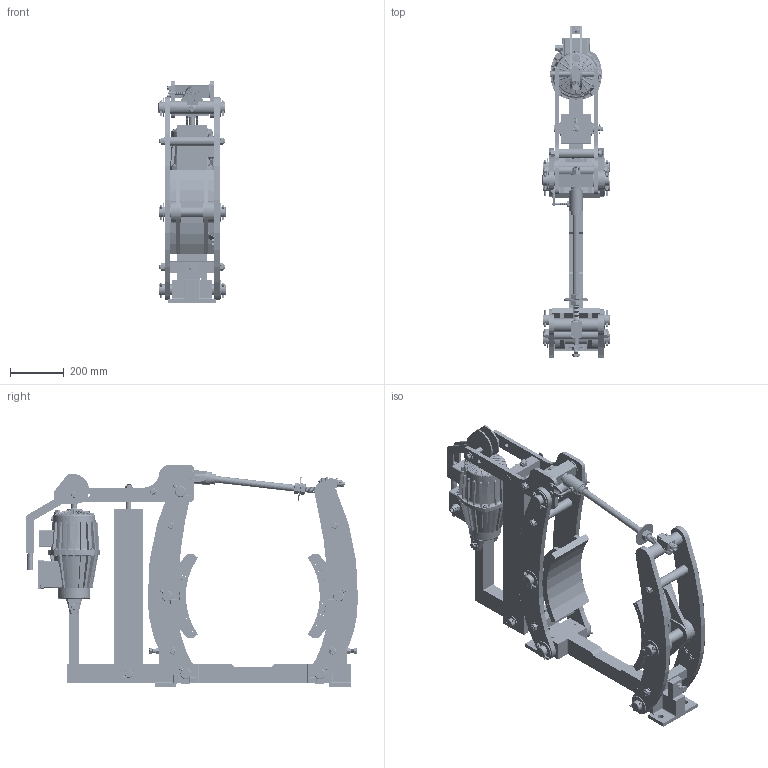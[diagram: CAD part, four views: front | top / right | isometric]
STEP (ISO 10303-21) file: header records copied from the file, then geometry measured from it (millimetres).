
FILE_DESCRIPTION((''),'2;1');
FILE_NAME('4459_504_551_E00002','2018-01-30T',('VORO'),(''),'CREO PARAMETRIC BY PTC INC, 2017170','CREO PARAMETRIC BY PTC INC, 2017170','');
FILE_SCHEMA(('CONFIG_CONTROL_DESIGN'));
Products named in the file (1): 4459_504_551_E00002
Bounding box: 250.49 x 1238 x 829.5 mm (x, y, z)
Surface area: 4133479.8 mm2 (no closed solid volume)
Topology: 0 solids, 3368 shells, 4161 faces, 25054 edges, 23404 vertices
Faces by surface type: plane 1620, cylinder 1234, cone 1062, torus 225, bspline 18, sphere 2
Entity records: 439414 total; most frequent: CARTESIAN_POINT 144030, PRESENTATION_STYLE_ASSIGNMENT 32514, DIRECTION 28371, STYLED_ITEM 28353, ORIENTED_EDGE 26597, CURVE_STYLE 24985, EDGE_CURVE 24985, VERTEX_POINT 23384
